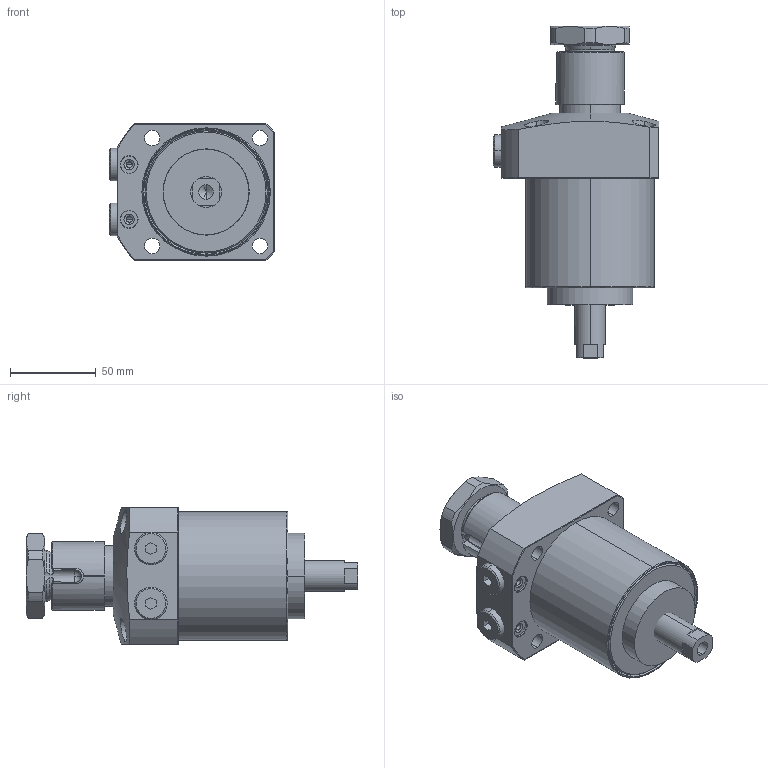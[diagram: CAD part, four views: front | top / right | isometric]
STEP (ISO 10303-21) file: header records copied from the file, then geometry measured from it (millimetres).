
FILE_DESCRIPTION (( 'STEP AP203' ), '1' );
FILE_NAME ('20630-CR-D.STEP', '2020-06-10T01:25:07', ( '微软用户' ), ( '微软中国' ), 'SwSTEP 2.0', 'SolidWorks 2014', '' );
FILE_SCHEMA (( 'CONFIG_CONTROL_DESIGN' ));
Length unit declared in the file: millimetre
Products named in the file (7): 20630-01^20630-CR-D; 20630-02^20630-CR-D; 20630-03^20630-CR-D; 20630-04^20630-CR-D; 20630-05^20630-CR-D; 20630-C-P-4^20630-CR-D; 20630-CR-D
Assembly tree (7 placements, depth 2):
  20630-CR-D
    20630-01^20630-CR-D
    20630-02^20630-CR-D
    20630-03^20630-CR-D
    20630-04^20630-CR-D
    20630-05^20630-CR-D
    20630-C-P-4^20630-CR-D  x2
Bounding box: 96.5 x 194 x 80 mm (x, y, z)
Volume: 652903.7 mm3; surface area: 83191 mm2
Topology: 7 solids, 7 shells, 228 faces, 543 edges, 344 vertices
Faces by surface type: plane 86, cylinder 77, cone 49, torus 14, sphere 2
Entity records: 7898 total; most frequent: CARTESIAN_POINT 2126, DIRECTION 1077, ORIENTED_EDGE 1022, EDGE_CURVE 511, AXIS2_PLACEMENT_3D 433, VERTEX_POINT 326, EDGE_LOOP 247, FACE_OUTER_BOUND 215
